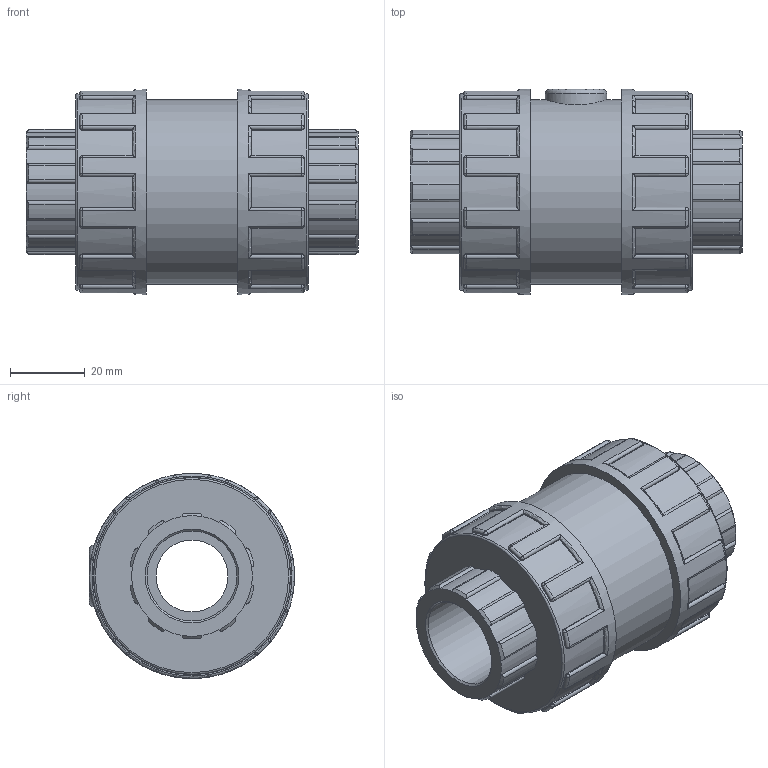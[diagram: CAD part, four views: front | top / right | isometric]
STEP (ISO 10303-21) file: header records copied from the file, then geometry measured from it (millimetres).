
FILE_DESCRIPTION(/* description */ ('PLASSON CHECK VALVE THR 3/4" PTFE COATED SPRING + EPDM O-RING'),/* implementation_level */ '2;1');
FILE_NAME(/* name */ 'C:\Dropbox\KIMPROJECTS-Inventor\99-16-3568-Processing\PVC Catalog 2017\110810 - 110610 110910 - 110010\11081007.ipt.stp',/* time_stamp */ '2017-12-07T16:08:05+02:00',/* author */ ('KIM'),/* organization */ (''),/* preprocessor_version */ 'ST-DEVELOPER v15.6',/* originating_system */ 'Autodesk Inventor 2015',/* authorisation */ '');
FILE_SCHEMA (('AUTOMOTIVE_DESIGN { 1 0 10303 214 3 1 1 }'));
Length unit declared in the file: millimetre
Products named in the file (1): 11081007
Bounding box: 89 x 55 x 55 mm (x, y, z)
Volume: 124675.5 mm3; surface area: 24684.2 mm2
Topology: 1 solids, 1 shells, 411 faces, 1021 edges, 618 vertices
Faces by surface type: cylinder 185, plane 105, torus 51, sphere 48, cone 22
Full cylindrical faces by diameter (mm): 16.5 x1, 19.294 x1, 24.117 x2, 49.5 x1, 52.8 x2, 55 x2
Entity records: 13378 total; most frequent: CARTESIAN_POINT 3599, DIRECTION 2180, ORIENTED_EDGE 1998, EDGE_CURVE 999, AXIS2_PLACEMENT_3D 906, VERTEX_POINT 611, CIRCLE 494, EDGE_LOOP 434
